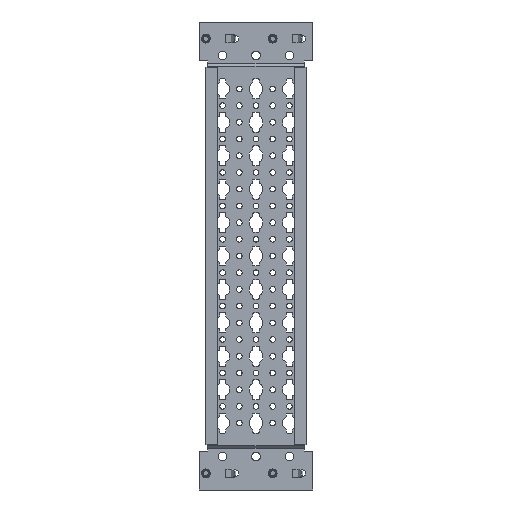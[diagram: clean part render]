
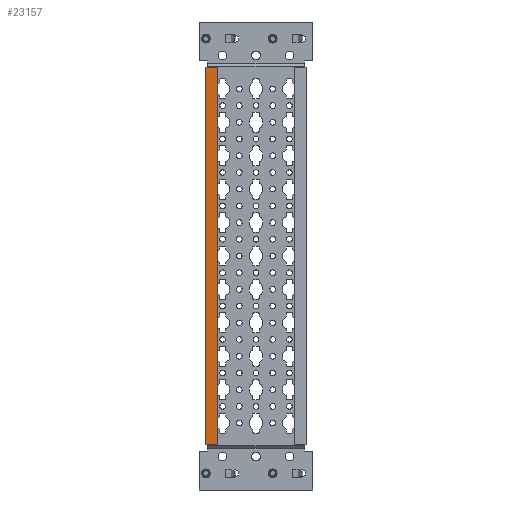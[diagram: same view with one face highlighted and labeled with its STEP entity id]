
A CAD part, left-side view. The second image highlights one B-rep face of the part: STEP entity #23157.
In plain terms, the highlighted planar face has unit normal (-1, 0, 0) as drawn and (0, 0, -1) by its records, which use the part's own axes.
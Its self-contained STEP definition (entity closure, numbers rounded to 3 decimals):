
#5213 = VERTEX_POINT('',#5214);
#5214 = CARTESIAN_POINT('',(141.,37.5,-25.));
#5220 = EDGE_CURVE('',#5221,#5213,#5223,.T.);
#5221 = VERTEX_POINT('',#5222);
#5222 = CARTESIAN_POINT('',(-141.,37.5,-25.));
#5223 = LINE('',#5224,#5225);
#5224 = CARTESIAN_POINT('',(0.,37.5,-25.));
#5225 = VECTOR('',#5226,1.);
#5226 = DIRECTION('',(1.,-0.,0.));
#23036 = VERTEX_POINT('',#23037);
#23037 = CARTESIAN_POINT('',(-141.,35.4,-25.));
#23052 = EDGE_CURVE('',#23036,#5221,#23053,.T.);
#23053 = LINE('',#23054,#23055);
#23054 = CARTESIAN_POINT('',(-141.,35.4,-25.));
#23055 = VECTOR('',#23056,1.);
#23056 = DIRECTION('',(0.,1.,0.));
#23076 = VERTEX_POINT('',#23077);
#23077 = CARTESIAN_POINT('',(141.,35.4,-25.));
#23083 = EDGE_CURVE('',#23076,#5213,#23084,.T.);
#23084 = LINE('',#23085,#23086);
#23085 = CARTESIAN_POINT('',(141.,0.,-25.));
#23086 = VECTOR('',#23087,1.);
#23087 = DIRECTION('',(-0.,1.,0.));
#23109 = VERTEX_POINT('',#23110);
#23110 = CARTESIAN_POINT('',(141.,28.5,-25.));
#23116 = EDGE_CURVE('',#23076,#23109,#23117,.T.);
#23117 = LINE('',#23118,#23119);
#23118 = CARTESIAN_POINT('',(141.,0.,-25.));
#23119 = VECTOR('',#23120,1.);
#23120 = DIRECTION('',(0.,-1.,0.));
#23131 = EDGE_CURVE('',#23132,#23036,#23134,.T.);
#23132 = VERTEX_POINT('',#23133);
#23133 = CARTESIAN_POINT('',(-141.,28.5,-25.));
#23134 = LINE('',#23135,#23136);
#23135 = CARTESIAN_POINT('',(-141.,0.,-25.));
#23136 = VECTOR('',#23137,1.);
#23137 = DIRECTION('',(0.,1.,0.));
#23157 = ADVANCED_FACE('',(#23158),#23171,.F.);
#23158 = FACE_BOUND('',#23159,.T.);
#23159 = EDGE_LOOP('',(#23160,#23161,#23162,#23163,#23164,#23165));
#23160 = ORIENTED_EDGE('',*,*,#23131,.T.);
#23161 = ORIENTED_EDGE('',*,*,#23052,.T.);
#23162 = ORIENTED_EDGE('',*,*,#5220,.T.);
#23163 = ORIENTED_EDGE('',*,*,#23083,.F.);
#23164 = ORIENTED_EDGE('',*,*,#23116,.T.);
#23165 = ORIENTED_EDGE('',*,*,#23166,.T.);
#23166 = EDGE_CURVE('',#23109,#23132,#23167,.T.);
#23167 = LINE('',#23168,#23169);
#23168 = CARTESIAN_POINT('',(0.,28.5,-25.));
#23169 = VECTOR('',#23170,1.);
#23170 = DIRECTION('',(-1.,0.,0.));
#23171 = PLANE('',#23172);
#23172 = AXIS2_PLACEMENT_3D('',#23173,#23174,#23175);
#23173 = CARTESIAN_POINT('',(0.,0.,-25.)
  );
#23174 = DIRECTION('',(0.,0.,1.));
#23175 = DIRECTION('',(0.,-1.,0.));
